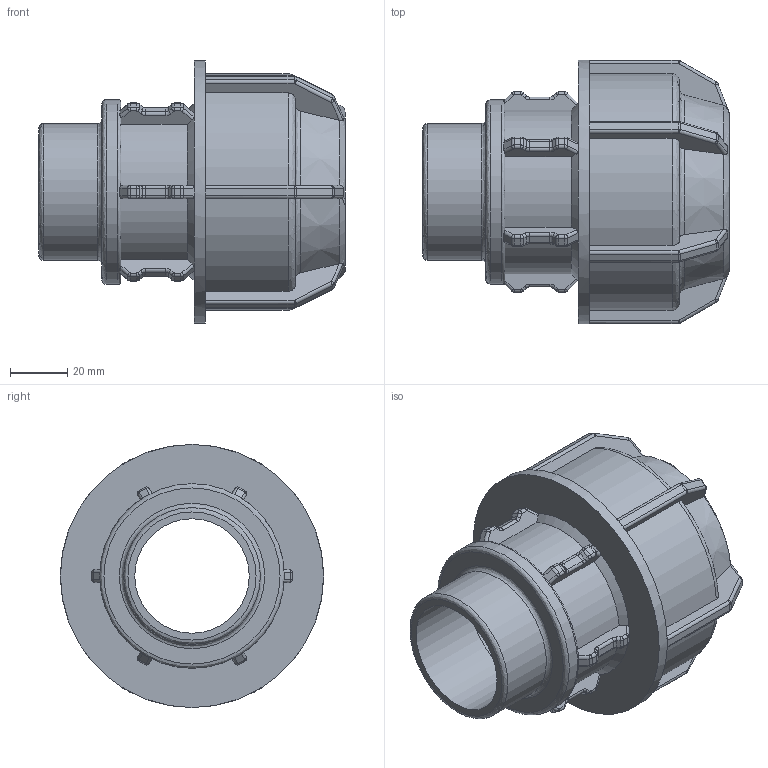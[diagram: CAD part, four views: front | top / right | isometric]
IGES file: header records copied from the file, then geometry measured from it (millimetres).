
Global section: file name: 140200050015.ipt; native system: Autodesk Inventor 2015; preprocessor: unknown; author: KIM; date: 20180409.130940; units: millimetre
Bounding box: 107 x 92 x 92 mm (x, y, z)
Volume: 199117.6 mm3; surface area: 53109.3 mm2
Topology: 1 solids, 1 shells, 470 faces, 1162 edges, 697 vertices
Faces by surface type: cylinder 171, plane 158, revolution 129, cone 12
Full cylindrical faces by diameter (mm): 47.803 x1, 64.534 x1, 92 x1
